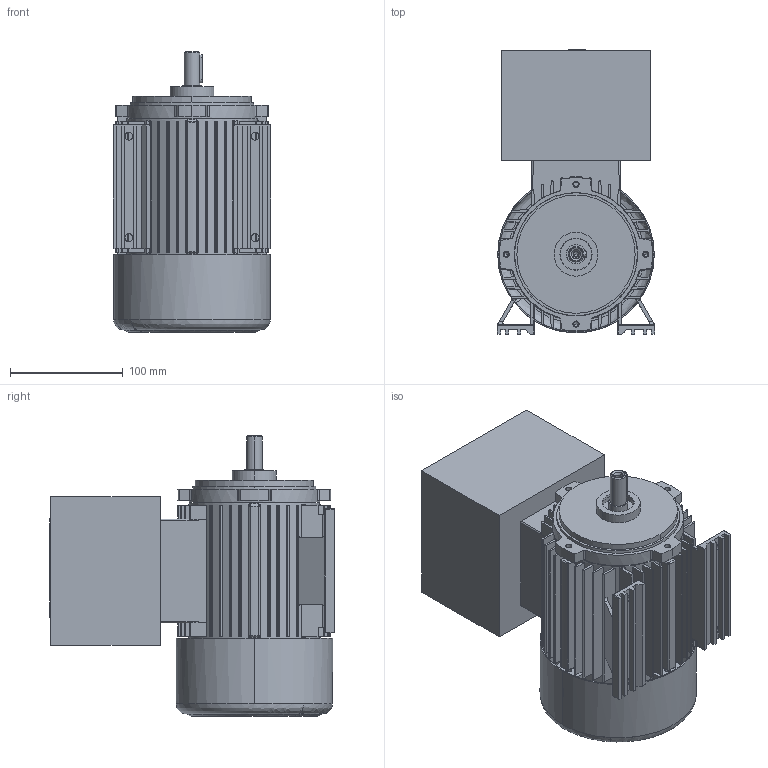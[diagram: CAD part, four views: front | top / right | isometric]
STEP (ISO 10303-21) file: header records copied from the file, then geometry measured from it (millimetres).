
FILE_DESCRIPTION (( 'STEP AP214' ), '1' );
FILE_NAME ('20.18390-A 5AT 71 B3 OG Exd.STEP', '2018-05-08T07:23:04', ( '' ), ( '' ), 'SwSTEP 2.0', 'SolidWorks 2017', '' );
FILE_SCHEMA (( 'AUTOMOTIVE_DESIGN' ));
Length unit declared in the file: millimetre
Products named in the file (1): 20.18390-A 5AT 71 B3 OG Exd
Bounding box: 140 x 252.8 x 249 mm (x, y, z)
Volume: 2891615.6 mm3; surface area: 445601.7 mm2
Topology: 4 solids, 4 shells, 893 faces, 2281 edges, 1447 vertices
Faces by surface type: plane 414, cylinder 339, bspline 94, cone 46
Entity records: 29830 total; most frequent: CARTESIAN_POINT 8158, DIRECTION 4515, ORIENTED_EDGE 4502, EDGE_CURVE 2251, AXIS2_PLACEMENT_3D 1628, VERTEX_POINT 1447, VECTOR 1259, LINE 1259
